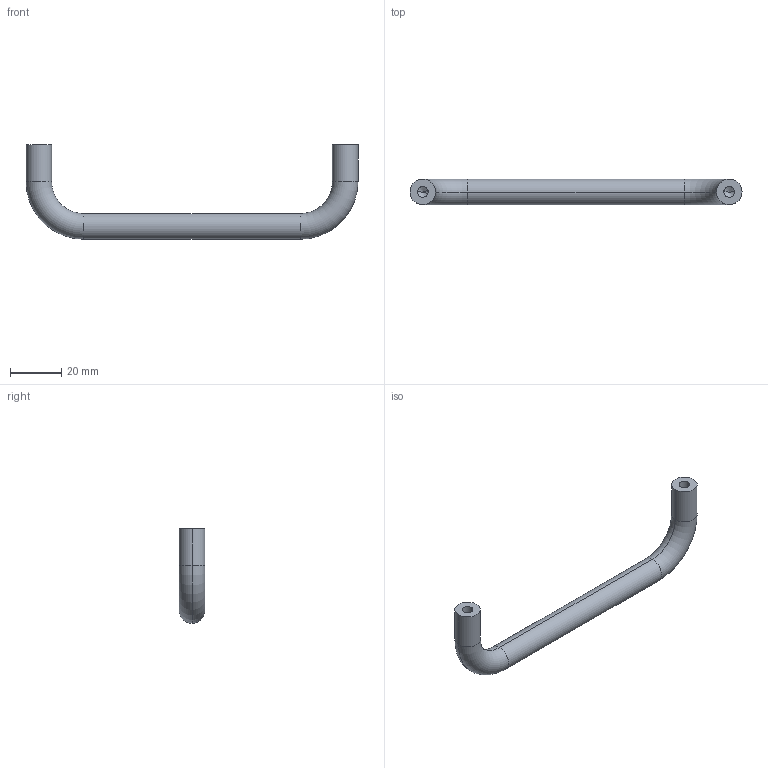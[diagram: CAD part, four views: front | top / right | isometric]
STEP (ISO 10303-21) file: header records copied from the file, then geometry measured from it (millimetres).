
FILE_DESCRIPTION (( 'STEP AP214' ), '1' );
FILE_NAME ('1.4014 Kahva AL.STEP', '2025-09-10T11:00:01', ( '' ), ( '' ), 'SwSTEP 2.0', 'SolidWorks 2025', '' );
FILE_SCHEMA (( 'AUTOMOTIVE_DESIGN' ));
Length unit declared in the file: millimetre
Products named in the file (1): 1.4014 Kahva AL
Bounding box: 130 x 10 x 37 mm (x, y, z)
Volume: 12833.4 mm3; surface area: 5861.8 mm2
Topology: 1 solids, 1 shells, 20 faces, 42 edges, 22 vertices
Faces by surface type: cylinder 10, torus 4, cone 4, plane 2
Entity records: 529 total; most frequent: DIRECTION 104, CARTESIAN_POINT 81, ORIENTED_EDGE 76, AXIS2_PLACEMENT_3D 45, EDGE_CURVE 38, CIRCLE 24, EDGE_LOOP 22, VERTEX_POINT 22
